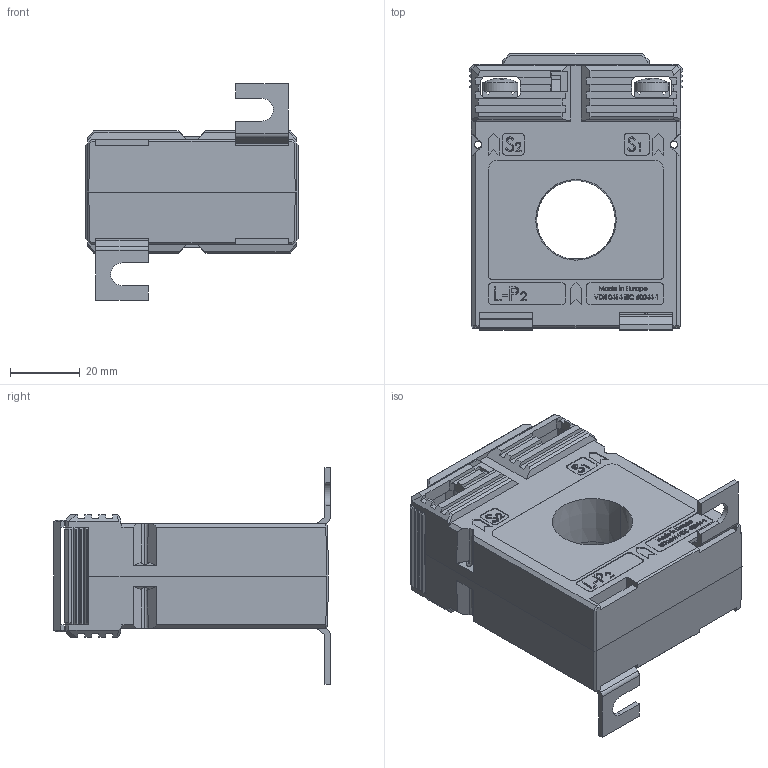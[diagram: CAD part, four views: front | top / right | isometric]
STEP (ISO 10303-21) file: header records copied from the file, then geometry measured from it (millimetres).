
FILE_DESCRIPTION (( 'STEP AP214' ), '1' );
FILE_NAME ('EASR22.3.STEP', '2012-01-27T09:10:53', ( 'User' ), ( 'EnDeCo GmbH' ), 'SwSTEP 2.0', 'SolidWorks 2010', '' );
FILE_SCHEMA (( 'AUTOMOTIVE_DESIGN' ));
Length unit declared in the file: millimetre
Products named in the file (8): ASR22_3_11_Gehäuseoberteil; ASR22_3_11; Fusswinkel_1,5; Verschlussklappe_28mm; MBS_WN-003_04_Klemme_WN-003_02; Linsenschraube DIN 7985 4.8 VZ M 5 x 10; Plombierplatte_C; EASR22.3
Assembly tree (13 placements, depth 2):
  EASR22.3
    Fusswinkel_1,5  x2
    Plombierplatte_C
    Verschlussklappe_28mm  x2
    MBS_WN-003_04_Klemme_WN-003_02  x2
    Linsenschraube DIN 7985 4.8 VZ M 5 x 10  x4
    ASR22_3_11_Gehäuseoberteil
    ASR22_3_11
Bounding box: 61 x 79 x 62 mm (x, y, z)
Volume: 118702.6 mm3; surface area: 42494.9 mm2
Topology: 13 solids, 13 shells, 1744 faces, 4568 edges, 2970 vertices
Faces by surface type: plane 1258, bspline 312, cylinder 100, cone 48, sphere 16, torus 10
Entity records: 64080 total; most frequent: CARTESIAN_POINT 27796, ORIENTED_EDGE 8116, DIRECTION 6030, EDGE_CURVE 4058, VECTOR 3170, LINE 3170, VERTEX_POINT 2672, EDGE_LOOP 1668
